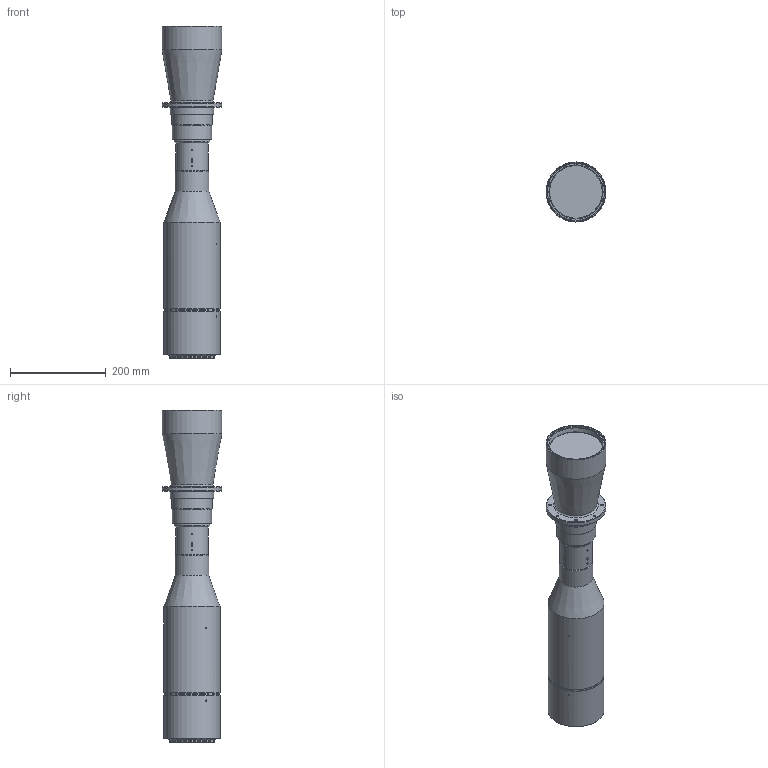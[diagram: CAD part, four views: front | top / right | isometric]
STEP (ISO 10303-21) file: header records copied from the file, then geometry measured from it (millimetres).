
FILE_DESCRIPTION (( 'STEP AP203' ), '1' );
FILE_NAME ('3d_mtl-9082m95-091_a002.STEP', '2017-11-09T06:54:05', ( '' ), ( '' ), 'SwSTEP 2.0', 'SolidWorks 2014', '' );
FILE_SCHEMA (( 'CONFIG_CONTROL_DESIGN' ));
Length unit declared in the file: millimetre
Products named in the file (1): 3d_mtl-9082m95-091_a002
Bounding box: 125 x 125 x 693.22 mm (x, y, z)
Volume: 3828771.9 mm3; surface area: 362597.6 mm2
Topology: 1 solids, 1 shells, 294 faces, 656 edges, 417 vertices
Faces by surface type: plane 133, cylinder 80, cone 79, torus 2
Full cylindrical faces by diameter (mm): 1.6 x4, 2.5 x6, 3 x16, 4.2 x4, 6.6 x4, 68 x1, 70 x1, 75 x1, 82 x1, 84 x1, 85 x2, 89 x1, 90 x1, 92 x1, 93.4 x1, 94 x1, 95 x1, 100 x1, 102 x2, 104 x2, 105.25 x1, 106 x1, 107.25 x1, 109 x1, 110 x1, 110.384 x1, 116 x1, 117 x2, 119.187 x1, 125 x2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
Entity records: 8737 total; most frequent: CARTESIAN_POINT 2822, DIRECTION 1206, ORIENTED_EDGE 998, EDGE_CURVE 499, AXIS2_PLACEMENT_3D 487, EDGE_LOOP 476, VERTEX_POINT 375, FACE_OUTER_BOUND 359
